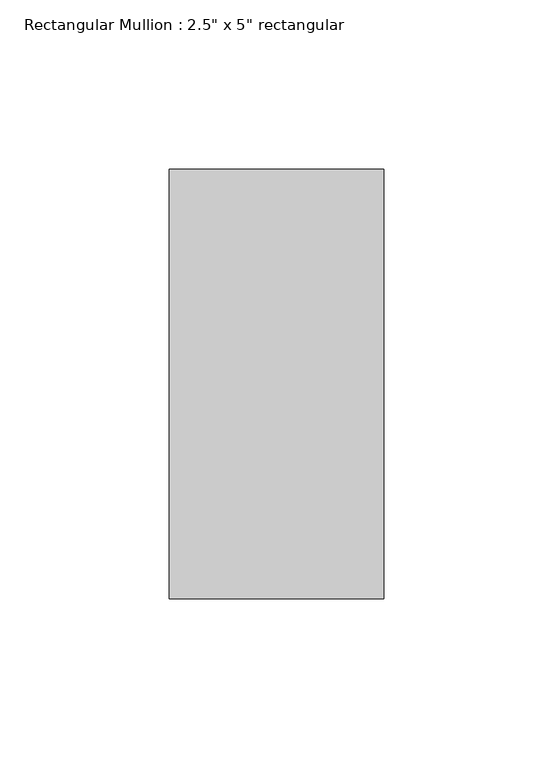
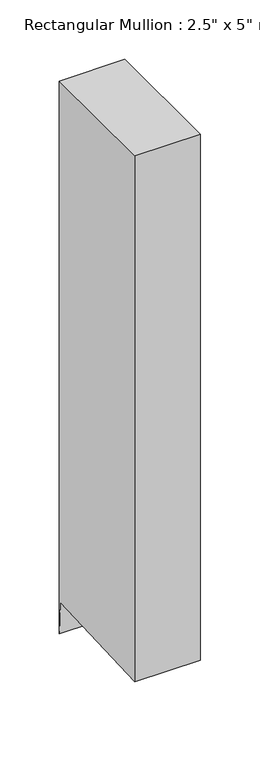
"""IFC4 building model written with IfcOpenShell, lengths in millimetres: member geometry."""

from ifc_helpers import new_model, si_unit, frame, origin, place, context, project, spatial, polyline, outline, extrude, source, transform, mapped, element, save


def member_dbd57660(model_context):
    return source(origin(), model_context, "Body", "SweptSolid", [
        extrude(outline(polyline([(-63.5, 0.0), (63.5, 0.0), (63.5, -568.018324), (62.0828234, -534.9390623), (-63.5, -540.3192622), (-63.5, 0.0)])), frame((-63.5, 0.0, 0.0), z_axis=(1.0, 0.0, 0.0), x_axis=(0.0, 1.0, 0.0)), (0.0, 0.0, 1.0), 63.5),
    ])


if __name__ == "__main__":
    model = new_model("IFC4")
    model_context = context("Model", 3, world=origin())
    ifc_project = project(units=[si_unit("LENGTHUNIT", "METRE", prefix="MILLI")], contexts=[model_context])
    site = spatial("IfcSite", under=ifc_project)
    building = spatial("IfcBuilding", under=site)
    placement = place(None, origin())
    member_shape = member_dbd57660(model_context)
    element("IfcMember", 1, ObjectType="Rectangular Mullion : 2.5\" x 5\" rectangular", at=placement, inside=building, context=model_context, shape_type="MappedRepresentation", body=[
        mapped(member_shape, transform((0.0, 0.0, 0.0), x_axis=(1.0, 0.0, 0.0), y_axis=(0.0, 1.0, 0.0), z_axis=(0.0, 0.0, 1.0))),
    ])
    save(model, "model.ifc")
